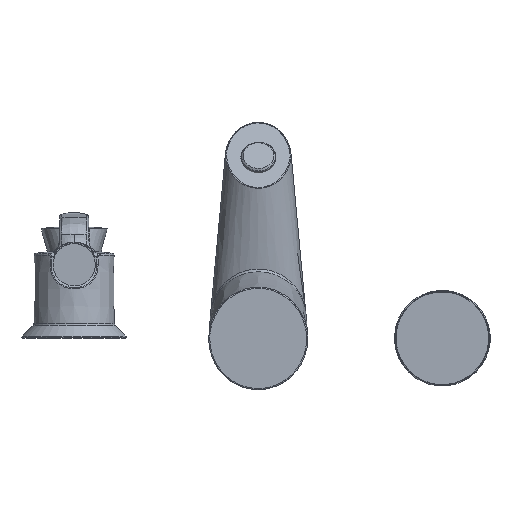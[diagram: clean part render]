
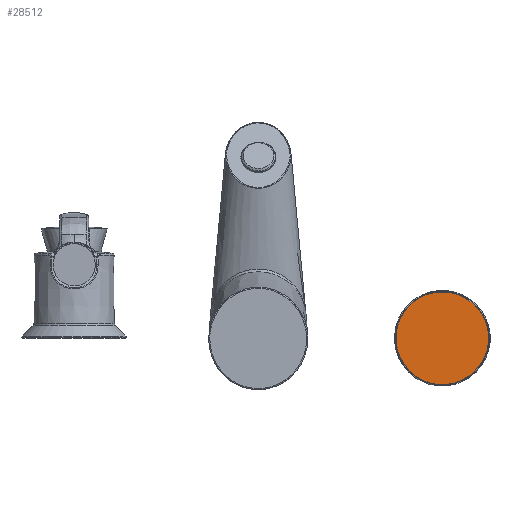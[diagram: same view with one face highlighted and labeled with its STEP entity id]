
A CAD part, front view. The second image highlights one B-rep face of the part: STEP entity #28512.
In plain terms, the highlighted planar face has unit normal (0, -1, 0).
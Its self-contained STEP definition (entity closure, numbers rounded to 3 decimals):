
#462 = CARTESIAN_POINT ( 'NONE',  ( 100., 0., 0. ) ) ;
#2893 = DIRECTION ( 'NONE',  ( 0., -1., 0. ) ) ;
#3114 = AXIS2_PLACEMENT_3D ( 'NONE', #462, #2893, #19765 ) ;
#5246 = PLANE ( 'NONE',  #3114 ) ;
#8232 = AXIS2_PLACEMENT_3D ( 'NONE', #25547, #11214, #27890 ) ;
#11214 = DIRECTION ( 'NONE',  ( 0., -1., 0. ) ) ;
#16068 = CARTESIAN_POINT ( 'NONE',  ( 117.819, 0., 17.819 ) ) ;
#16849 = CIRCLE ( 'NONE', #8232, 25.2 ) ;
#19017 = FACE_OUTER_BOUND ( 'NONE', #26916, .T. ) ;
#19765 = DIRECTION ( 'NONE',  ( 0.707, 0., 0.707 ) ) ;
#19961 = EDGE_CURVE ( 'NONE', #27660, #27660, #16849, .T. ) ;
#20003 = ORIENTED_EDGE ( 'NONE', *, *, #19961, .T. ) ;
#25547 = CARTESIAN_POINT ( 'NONE',  ( 100., 0., 0. ) ) ;
#26916 = EDGE_LOOP ( 'NONE', ( #20003 ) ) ;
#27660 = VERTEX_POINT ( 'NONE', #16068 ) ;
#27890 = DIRECTION ( 'NONE',  ( 0.707, 0., 0.707 ) ) ;
#28512 = ADVANCED_FACE ( 'NONE', ( #19017 ), #5246, .T. ) ;
